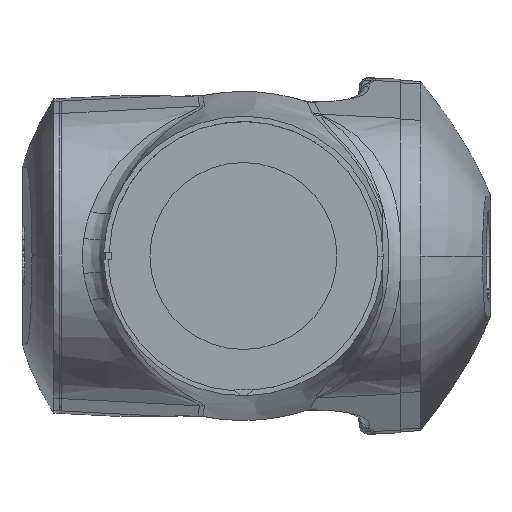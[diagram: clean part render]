
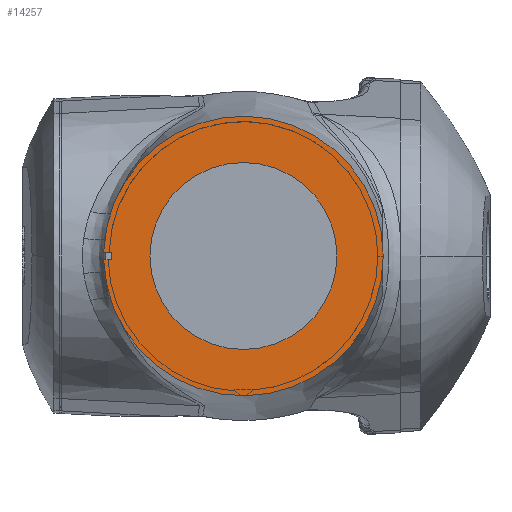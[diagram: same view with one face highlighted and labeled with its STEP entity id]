
A CAD part, left-side view. The second image highlights one B-rep face of the part: STEP entity #14257.
In plain terms, the highlighted planar face has unit normal (-1, 0, 0).
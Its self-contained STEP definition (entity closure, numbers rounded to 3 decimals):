
#512 = CARTESIAN_POINT ( 'NONE',  ( 533., 141.944, 2521. ) ) ;
#780 = VERTEX_POINT ( 'NONE', #30772 ) ;
#1317 = VERTEX_POINT ( 'NONE', #15026 ) ;
#1814 = CARTESIAN_POINT ( 'NONE',  ( 533., 0., 2525. ) ) ;
#2137 = ORIENTED_EDGE ( 'NONE', *, *, #18285, .F. ) ;
#2223 = DIRECTION ( 'NONE',  ( 0., -1., 0. ) ) ;
#2344 = VECTOR ( 'NONE', #39572, 1000. ) ;
#2664 = DIRECTION ( 'NONE',  ( 0., -1., 0. ) ) ;
#3428 = VERTEX_POINT ( 'NONE', #38262 ) ;
#3650 = CARTESIAN_POINT ( 'NONE',  ( 533., -142., 2525. ) ) ;
#4829 = FACE_OUTER_BOUND ( 'NONE', #8785, .T. ) ;
#5279 = VECTOR ( 'NONE', #36025, 1000. ) ;
#5557 = VERTEX_POINT ( 'NONE', #3650 ) ;
#6854 = CIRCLE ( 'NONE', #12002, 142. ) ;
#7073 = DIRECTION ( 'NONE',  ( -1., 0., 0. ) ) ;
#7115 = LINE ( 'NONE', #31634, #2344 ) ;
#7345 = ORIENTED_EDGE ( 'NONE', *, *, #27235, .T. ) ;
#7546 = AXIS2_PLACEMENT_3D ( 'NONE', #34620, #7073, #19351 ) ;
#7813 = DIRECTION ( 'NONE',  ( 0., -1., 0. ) ) ;
#8785 = EDGE_LOOP ( 'NONE', ( #20273, #35455, #38642, #10036, #7345 ) ) ;
#9095 = AXIS2_PLACEMENT_3D ( 'NONE', #10690, #22968, #13330 ) ;
#9121 = EDGE_CURVE ( 'NONE', #5557, #780, #6854, .T. ) ;
#10036 = ORIENTED_EDGE ( 'NONE', *, *, #9121, .T. ) ;
#10690 = CARTESIAN_POINT ( 'NONE',  ( 533., 0., 2525. ) ) ;
#10939 = EDGE_CURVE ( 'NONE', #25082, #36597, #7115, .T. ) ;
#12002 = AXIS2_PLACEMENT_3D ( 'NONE', #31956, #17323, #7813 ) ;
#13115 = CARTESIAN_POINT ( 'NONE',  ( 533., 134., 2521. ) ) ;
#13330 = DIRECTION ( 'NONE',  ( 0., -1., 0. ) ) ;
#14257 = ADVANCED_FACE ( 'NONE', ( #39226, #4829 ), #24138, .T. ) ;
#14940 = DIRECTION ( 'NONE',  ( -1., 0., 0. ) ) ;
#15026 = CARTESIAN_POINT ( 'NONE',  ( 533., 134., 2529. ) ) ;
#16795 = LINE ( 'NONE', #19409, #28139 ) ;
#17225 = CIRCLE ( 'NONE', #26189, 95. ) ;
#17323 = DIRECTION ( 'NONE',  ( -1., 0., 0. ) ) ;
#17878 = CIRCLE ( 'NONE', #7546, 142. ) ;
#18285 = EDGE_CURVE ( 'NONE', #20071, #3428, #17225, .T. ) ;
#18567 = CARTESIAN_POINT ( 'NONE',  ( 533., -95., 2525. ) ) ;
#19351 = DIRECTION ( 'NONE',  ( 0., -1., 0. ) ) ;
#19409 = CARTESIAN_POINT ( 'NONE',  ( 533., 134., 2525. ) ) ;
#19819 = CARTESIAN_POINT ( 'NONE',  ( 533., 0., 2525. ) ) ;
#20071 = VERTEX_POINT ( 'NONE', #18567 ) ;
#20273 = ORIENTED_EDGE ( 'NONE', *, *, #24106, .F. ) ;
#20334 = CARTESIAN_POINT ( 'NONE',  ( 533., 0., 2529. ) ) ;
#20850 = EDGE_CURVE ( 'NONE', #36597, #5557, #17878, .T. ) ;
#22422 = DIRECTION ( 'NONE',  ( 0., 0., 1. ) ) ;
#22968 = DIRECTION ( 'NONE',  ( -1., 0., 0. ) ) ;
#24106 = EDGE_CURVE ( 'NONE', #25082, #1317, #16795, .T. ) ;
#24138 = PLANE ( 'NONE',  #35877 ) ;
#25082 = VERTEX_POINT ( 'NONE', #13115 ) ;
#25962 = LINE ( 'NONE', #20334, #5279 ) ;
#26005 = EDGE_CURVE ( 'NONE', #3428, #20071, #33476, .T. ) ;
#26189 = AXIS2_PLACEMENT_3D ( 'NONE', #19819, #14940, #2664 ) ;
#27235 = EDGE_CURVE ( 'NONE', #780, #1317, #25962, .T. ) ;
#28139 = VECTOR ( 'NONE', #22422, 1000. ) ;
#28298 = EDGE_LOOP ( 'NONE', ( #29816, #2137 ) ) ;
#29816 = ORIENTED_EDGE ( 'NONE', *, *, #26005, .F. ) ;
#30772 = CARTESIAN_POINT ( 'NONE',  ( 533., 141.944, 2529. ) ) ;
#31634 = CARTESIAN_POINT ( 'NONE',  ( 533., 0., 2521. ) ) ;
#31956 = CARTESIAN_POINT ( 'NONE',  ( 533., 0., 2525. ) ) ;
#33476 = CIRCLE ( 'NONE', #9095, 95. ) ;
#34620 = CARTESIAN_POINT ( 'NONE',  ( 533., 0., 2525. ) ) ;
#35455 = ORIENTED_EDGE ( 'NONE', *, *, #10939, .T. ) ;
#35808 = DIRECTION ( 'NONE',  ( -1., 0., 0. ) ) ;
#35877 = AXIS2_PLACEMENT_3D ( 'NONE', #1814, #35808, #2223 ) ;
#36025 = DIRECTION ( 'NONE',  ( 0., -1., 0. ) ) ;
#36597 = VERTEX_POINT ( 'NONE', #512 ) ;
#38262 = CARTESIAN_POINT ( 'NONE',  ( 533., 95., 2525. ) ) ;
#38642 = ORIENTED_EDGE ( 'NONE', *, *, #20850, .T. ) ;
#39226 = FACE_BOUND ( 'NONE', #28298, .T. ) ;
#39572 = DIRECTION ( 'NONE',  ( 0., 1., 0. ) ) ;
